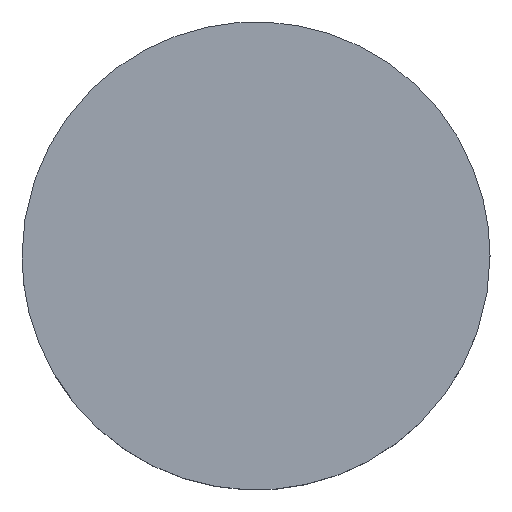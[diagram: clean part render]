
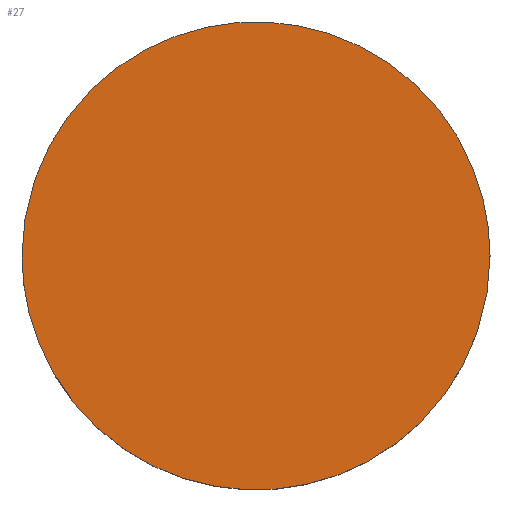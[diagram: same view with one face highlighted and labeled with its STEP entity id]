
A CAD part, top view. The second image highlights one B-rep face of the part: STEP entity #27.
In plain terms, the highlighted planar face has unit normal (0, 0, 1).
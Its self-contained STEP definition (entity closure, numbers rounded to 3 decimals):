
#27=ADVANCED_FACE('',(#283),#3846,.T.);
#283=FACE_OUTER_BOUND('',#539,.T.);
#539=EDGE_LOOP('',(#798,#799));
#798=ORIENTED_EDGE('',*,*,#1818,.F.);
#799=ORIENTED_EDGE('',*,*,#1814,.F.);
#1814=EDGE_CURVE('',#3338,#3340,#2576,.T.);
#1818=EDGE_CURVE('',#3340,#3338,#2580,.T.);
#2576=(
BOUNDED_CURVE()
B_SPLINE_CURVE(2,(#4161,#4162,#4163,#4164,#4165),.UNSPECIFIED.,.F.,.F.)
B_SPLINE_CURVE_WITH_KNOTS((3,2,3),(0.,549.779,1099.557),
 .UNSPECIFIED.)
CURVE()
GEOMETRIC_REPRESENTATION_ITEM()
RATIONAL_B_SPLINE_CURVE((1.,0.707,1.,0.707,1.))
REPRESENTATION_ITEM('')
);
#2580=(
BOUNDED_CURVE()
B_SPLINE_CURVE(2,(#4175,#4176,#4177,#4178,#4179),.UNSPECIFIED.,.F.,.F.)
B_SPLINE_CURVE_WITH_KNOTS((3,2,3),(1099.557,1649.336,2199.115),
 .UNSPECIFIED.)
CURVE()
GEOMETRIC_REPRESENTATION_ITEM()
RATIONAL_B_SPLINE_CURVE((1.,0.707,1.,0.707,1.))
REPRESENTATION_ITEM('')
);
#3338=VERTEX_POINT('',#4157);
#3340=VERTEX_POINT('',#4159);
#3846=PLANE('',#4122);
#4122=AXIS2_PLACEMENT_3D('',#4145,#4128,$);
#4128=DIRECTION('',(0.,0.,1.));
#4145=CARTESIAN_POINT('',(8682.091,282.102,470.168));
#4157=CARTESIAN_POINT('',(9188.341,0.852,470.168));
#4159=CARTESIAN_POINT('',(8738.341,0.852,470.168));
#4161=CARTESIAN_POINT('',(9188.341,0.852,470.168));
#4162=CARTESIAN_POINT('',(9188.341,-224.148,470.168));
#4163=CARTESIAN_POINT('',(8963.341,-224.148,470.168));
#4164=CARTESIAN_POINT('',(8738.341,-224.148,470.168));
#4165=CARTESIAN_POINT('',(8738.341,0.852,470.168));
#4175=CARTESIAN_POINT('',(8738.341,0.852,470.168));
#4176=CARTESIAN_POINT('',(8738.341,225.852,470.168));
#4177=CARTESIAN_POINT('',(8963.341,225.852,470.168));
#4178=CARTESIAN_POINT('',(9188.341,225.852,470.168));
#4179=CARTESIAN_POINT('',(9188.341,0.852,470.168));
